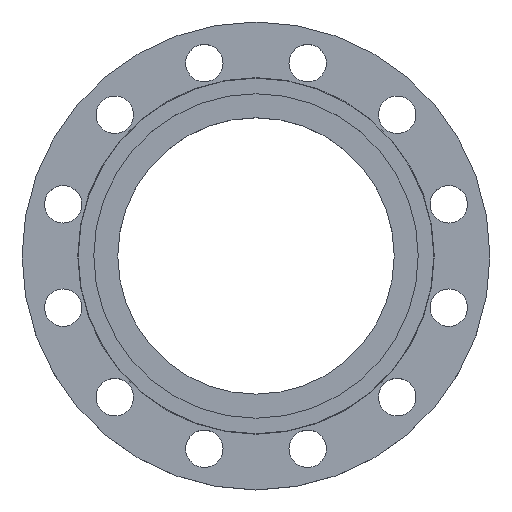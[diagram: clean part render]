
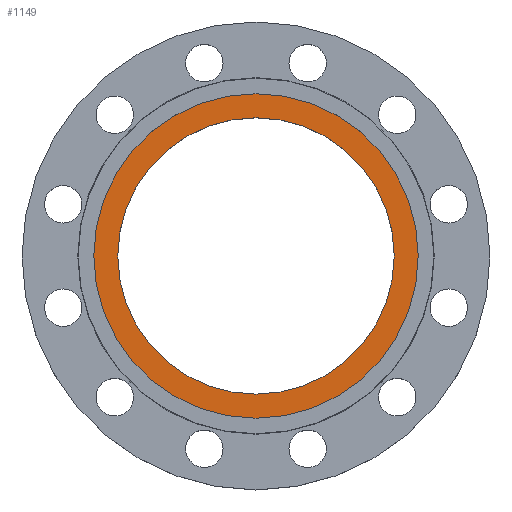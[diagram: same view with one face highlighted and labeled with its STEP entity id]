
A CAD part, top view. The second image highlights one B-rep face of the part: STEP entity #1149.
In plain terms, the highlighted planar face has unit normal (0, 0, 1).
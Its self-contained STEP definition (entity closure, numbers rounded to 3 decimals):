
#12 = EDGE_CURVE ( 'NONE', #1234, #1113, #935, .T. ) ;
#23 = DIRECTION ( 'NONE',  ( 1., 0., 0. ) ) ;
#25 = DIRECTION ( 'NONE',  ( 0., 0., 1. ) ) ;
#27 = CARTESIAN_POINT ( 'NONE',  ( 0., 0., -4.5 ) ) ;
#42 = CARTESIAN_POINT ( 'NONE',  ( 130., 0., -4.5 ) ) ;
#63 = DIRECTION ( 'NONE',  ( -1., 0., 0. ) ) ;
#65 = DIRECTION ( 'NONE',  ( 0., 0., -1. ) ) ;
#67 = CARTESIAN_POINT ( 'NONE',  ( 0., 0., -4.5 ) ) ;
#68 = DIRECTION ( 'NONE',  ( 1., 0., 0. ) ) ;
#70 = DIRECTION ( 'NONE',  ( 0., 0., 1. ) ) ;
#71 = CARTESIAN_POINT ( 'NONE',  ( 0., 0., -4.5 ) ) ;
#216 = FACE_BOUND ( 'NONE', #1382, .T. ) ;
#233 = CARTESIAN_POINT ( 'NONE',  ( 110.75, 0., -4.5 ) ) ;
#581 = DIRECTION ( 'NONE',  ( 0., 0., -1. ) ) ;
#582 = CARTESIAN_POINT ( 'NONE',  ( 0., 0., -4.5 ) ) ;
#623 = VERTEX_POINT ( 'NONE', #233 ) ;
#642 = DIRECTION ( 'NONE',  ( -1., 0., 0. ) ) ;
#692 = CARTESIAN_POINT ( 'NONE',  ( -110.75, 0., -4.5 ) ) ;
#715 = DIRECTION ( 'NONE',  ( 0., 0., 1. ) ) ;
#756 = CIRCLE ( 'NONE', #757, 110.75 ) ;
#757 = AXIS2_PLACEMENT_3D ( 'NONE', #71, #70, #68 ) ;
#758 = CIRCLE ( 'NONE', #765, 130. ) ;
#765 = AXIS2_PLACEMENT_3D ( 'NONE', #67, #65, #63 ) ;
#769 = CARTESIAN_POINT ( 'NONE',  ( -130., 0., -4.5 ) ) ;
#785 = FACE_OUTER_BOUND ( 'NONE', #1300, .T. ) ;
#787 = CIRCLE ( 'NONE', #788, 110.75 ) ;
#788 = AXIS2_PLACEMENT_3D ( 'NONE', #27, #25, #23 ) ;
#863 = EDGE_CURVE ( 'NONE', #623, #1303, #756, .T. ) ;
#871 = EDGE_CURVE ( 'NONE', #1113, #1234, #758, .T. ) ;
#923 = AXIS2_PLACEMENT_3D ( 'NONE', #42, #715, #1025 ) ;
#930 = AXIS2_PLACEMENT_3D ( 'NONE', #582, #581, #642 ) ;
#935 = CIRCLE ( 'NONE', #930, 130. ) ;
#945 = EDGE_CURVE ( 'NONE', #1303, #623, #787, .T. ) ;
#977 = ORIENTED_EDGE ( 'NONE', *, *, #863, .F. ) ;
#981 = ORIENTED_EDGE ( 'NONE', *, *, #945, .F. ) ;
#983 = ORIENTED_EDGE ( 'NONE', *, *, #871, .F. ) ;
#985 = ORIENTED_EDGE ( 'NONE', *, *, #12, .F. ) ;
#1025 = DIRECTION ( 'NONE',  ( 1., 0., 0. ) ) ;
#1065 = CARTESIAN_POINT ( 'NONE',  ( 130., 0., -4.5 ) ) ;
#1113 = VERTEX_POINT ( 'NONE', #769 ) ;
#1122 = PLANE ( 'NONE',  #923 ) ;
#1149 = ADVANCED_FACE ( 'NONE', ( #216, #785 ), #1122, .T. ) ;
#1234 = VERTEX_POINT ( 'NONE', #1065 ) ;
#1300 = EDGE_LOOP ( 'NONE', ( #983, #985 ) ) ;
#1303 = VERTEX_POINT ( 'NONE', #692 ) ;
#1382 = EDGE_LOOP ( 'NONE', ( #977, #981 ) ) ;
